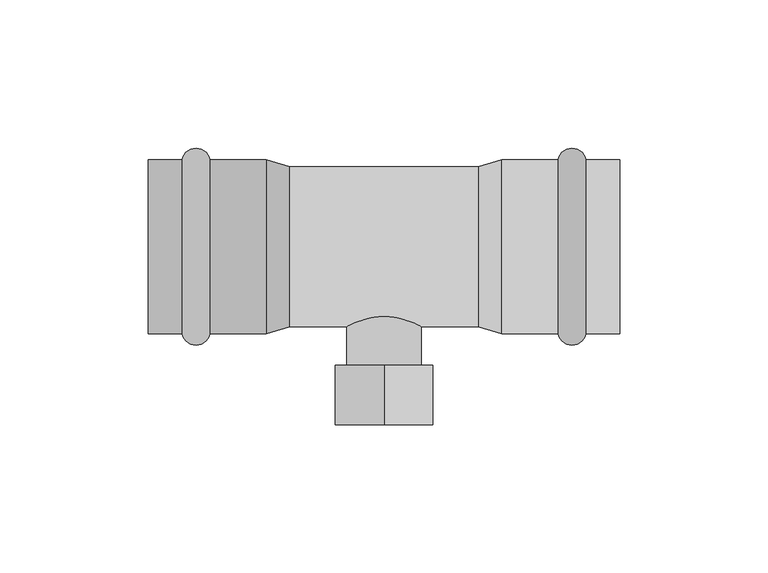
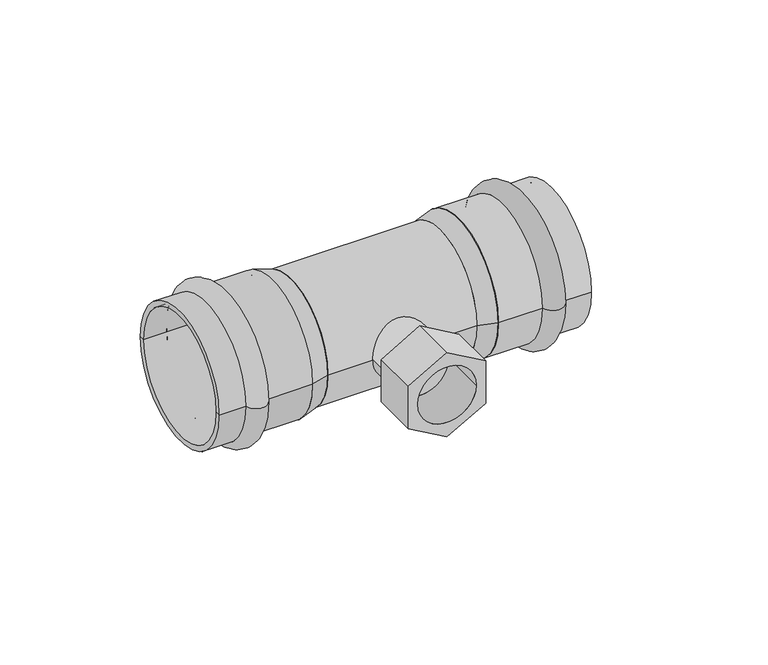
"""IFC4 building model written with IfcOpenShell, lengths in millimetres: pipe fitting geometry, VALTEC_VTi.932.I_Тройник с переходом на внутреннюю резьбу нержавеющая сталь : VTi.932.I."""

from ifc_helpers import new_model, si_unit, point, frame, origin, origin_2d, place, context, project, spatial, polyline, circle_curve, ellipse_curve, trimmed, segment, composite_curve, outline, extrude, source, transform, mapped, element, save
from ifc_brep_helpers import plane_surface, cylinder_surface, revolved_surface, advanced_brep


def pipe_fitting_14393e5a(model_context):
    return source(origin(), model_context, "Body", "SolidModel", [
        advanced_brep(
        [(68.1148701, 29.3, 0.0), (68.1148701, -29.3, 0.0), (58.6851299, -29.3, 0.0), (58.6851299, 29.3, 0.0), (79.5, 29.3, 0.0), (79.5, -29.3, 0.0), (79.5, 27.0, 0.0), (79.5, -27.0, 0.0), (39.75, 27.0, 0.0), (39.75, -27.0, 0.0), (39.75, 29.3, 0.0), (39.75, -29.3, 0.0)],
        [
            (0, 1, circle_curve(frame((68.1148701, 0.0, 0.0), z_axis=(-1.0, 0.0, 0.0), x_axis=(0.0, -1.0, 0.0)), 29.3)),
            (1, 2, circle_curve(frame((63.4, -28.4, 0.0), z_axis=(0.0, 0.0, -1.0), x_axis=(-1.0, 0.0, 0.0)), 4.8)),
            (2, 3, circle_curve(frame((58.6851299, 0.0, 0.0), z_axis=(1.0, 0.0, 0.0), x_axis=(0.0, -1.0, 0.0)), 29.3)),
            (3, 0, circle_curve(frame((63.4, 28.4, 0.0), z_axis=(0.0, 0.0, -1.0), x_axis=(-1.0, 0.0, 0.0)), 4.8)),
            (1, 0, circle_curve(frame((68.1148701, 0.0, 0.0), z_axis=(-1.0, 0.0, 0.0), x_axis=(0.0, -1.0, 0.0)), 29.3)),
            (3, 2, circle_curve(frame((58.6851299, 0.0, 0.0), z_axis=(1.0, 0.0, 0.0), x_axis=(0.0, -1.0, 0.0)), 29.3)),
            (4, 5, circle_curve(frame((79.5, 0.0, 0.0), z_axis=(-1.0, 0.0, 0.0), x_axis=(0.0, -1.0, 0.0)), 29.3)),
            (5, 1),
            (0, 4),
            (5, 4, circle_curve(frame((79.5, 0.0, 0.0), z_axis=(-1.0, 0.0, 0.0), x_axis=(0.0, -1.0, 0.0)), 29.3)),
            (6, 7, circle_curve(frame((79.5, 0.0, 0.0), z_axis=(-1.0, 0.0, 0.0), x_axis=(0.0, -1.0, 0.0)), 27.0)),
            (7, 5),
            (4, 6),
            (7, 6, circle_curve(frame((79.5, 0.0, 0.0), z_axis=(-1.0, 0.0, 0.0), x_axis=(0.0, -1.0, 0.0)), 27.0)),
            (8, 9, circle_curve(frame((39.75, 0.0, 0.0), z_axis=(-1.0, 0.0, 0.0), x_axis=(0.0, -1.0, 0.0)), 27.0)),
            (9, 7),
            (6, 8),
            (9, 8, circle_curve(frame((39.75, 0.0, 0.0), z_axis=(-1.0, 0.0, 0.0), x_axis=(0.0, -1.0, 0.0)), 27.0)),
            (10, 11, circle_curve(frame((39.75, 0.0, 0.0), z_axis=(-1.0, 0.0, 0.0), x_axis=(0.0, -1.0, 0.0)), 29.3)),
            (11, 9),
            (8, 10),
            (11, 10, circle_curve(frame((39.75, 0.0, 0.0), z_axis=(-1.0, 0.0, 0.0), x_axis=(0.0, -1.0, 0.0)), 29.3)),
            (2, 11),
            (10, 3),
        ],
        [
            revolved_surface(trimmed(ellipse_curve(frame((63.4, -28.4, 0.0), z_axis=(0.0, 0.0, 1.0), x_axis=(-1.0, 0.0, 0.0)), 4.8, 4.8), [point((58.6851299, -29.3, 0.0))], [point((68.1148701, -29.3, 0.0))], True, "CARTESIAN"), (83.0364426, 0.0, 0.0), (1.0, 0.0, 0.0)),
            cylinder_surface(frame((83.0364426, 0.0, 0.0), z_axis=(1.0, 0.0, 0.0), x_axis=(0.0, -1.0, 0.0)), 29.3),
            plane_surface(frame((79.5, 0.0, 0.0), z_axis=(1.0, 0.0, 0.0), x_axis=(0.0, -1.0, 0.0))),
            revolved_surface(polyline([(79.5, -27.0, 0.0), (39.75, -27.0, 0.0)]), (83.0364426, 0.0, 0.0), (1.0, 0.0, 0.0)),
            plane_surface(frame((39.75, 0.0, 0.0), z_axis=(-1.0, 0.0, 0.0), x_axis=(0.0, -1.0, 0.0))),
        ],
        [
            (0, [[1, 2, 3, 4]]),
            (0, [[5, -4, 6, -2]]),
            (1, [[7, 8, -1, 9]]),
            (1, [[10, -9, -5, -8]]),
            (2, [[11, 12, -7, 13]]),
            (2, [[14, -13, -10, -12]]),
            (3, [[15, 16, -11, 17]]),
            (3, [[18, -17, -14, -16]]),
            (4, [[19, 20, -15, 21]]),
            (4, [[22, -21, -18, -20]]),
            (1, [[-3, 23, -19, 24]]),
            (1, [[-6, -24, -22, -23]]),
        ],
    ),
        advanced_brep(
        [(-68.1148701, -29.3, 0.0), (-68.1148701, 29.3, 0.0), (-58.6851299, 29.3, 0.0), (-58.6851299, -29.3, 0.0), (-79.5, -29.3, 0.0), (-79.5, 29.3, 0.0), (-79.5, -27.0, 0.0), (-79.5, 27.0, 0.0), (-39.75, -27.0, 0.0), (-39.75, 27.0, 0.0), (-39.75, -29.3, 0.0), (-39.75, 29.3, 0.0)],
        [
            (0, 1, circle_curve(frame((-68.1148701, 0.0, 0.0), z_axis=(1.0, 0.0, 0.0), x_axis=(0.0, 1.0, 0.0)), 29.3)),
            (1, 2, circle_curve(frame((-63.4, 28.4, 0.0), z_axis=(0.0, 0.0, -1.0), x_axis=(1.0, 0.0, 0.0)), 4.8)),
            (2, 3, circle_curve(frame((-58.6851299, 0.0, 0.0), z_axis=(-1.0, 0.0, 0.0), x_axis=(0.0, 1.0, 0.0)), 29.3)),
            (3, 0, circle_curve(frame((-63.4, -28.4, 0.0), z_axis=(0.0, 0.0, -1.0), x_axis=(1.0, 0.0, 0.0)), 4.8)),
            (1, 0, circle_curve(frame((-68.1148701, 0.0, 0.0), z_axis=(1.0, 0.0, 0.0), x_axis=(0.0, 1.0, 0.0)), 29.3)),
            (3, 2, circle_curve(frame((-58.6851299, 0.0, 0.0), z_axis=(-1.0, 0.0, 0.0), x_axis=(0.0, 1.0, 0.0)), 29.3)),
            (4, 5, circle_curve(frame((-79.5, 0.0, 0.0), z_axis=(1.0, 0.0, 0.0), x_axis=(0.0, 1.0, 0.0)), 29.3)),
            (5, 1),
            (0, 4),
            (5, 4, circle_curve(frame((-79.5, 0.0, 0.0), z_axis=(1.0, 0.0, 0.0), x_axis=(0.0, 1.0, 0.0)), 29.3)),
            (6, 7, circle_curve(frame((-79.5, 0.0, 0.0), z_axis=(1.0, 0.0, 0.0), x_axis=(0.0, 1.0, 0.0)), 27.0)),
            (7, 5),
            (4, 6),
            (7, 6, circle_curve(frame((-79.5, 0.0, 0.0), z_axis=(1.0, 0.0, 0.0), x_axis=(0.0, 1.0, 0.0)), 27.0)),
            (8, 9, circle_curve(frame((-39.75, 0.0, 0.0), z_axis=(1.0, 0.0, 0.0), x_axis=(0.0, 1.0, 0.0)), 27.0)),
            (9, 7),
            (6, 8),
            (9, 8, circle_curve(frame((-39.75, 0.0, 0.0), z_axis=(1.0, 0.0, 0.0), x_axis=(0.0, 1.0, 0.0)), 27.0)),
            (10, 11, circle_curve(frame((-39.75, 0.0, 0.0), z_axis=(1.0, 0.0, 0.0), x_axis=(0.0, 1.0, 0.0)), 29.3)),
            (11, 9),
            (8, 10),
            (11, 10, circle_curve(frame((-39.75, 0.0, 0.0), z_axis=(1.0, 0.0, 0.0), x_axis=(0.0, 1.0, 0.0)), 29.3)),
            (2, 11),
            (10, 3),
        ],
        [
            revolved_surface(trimmed(ellipse_curve(frame((-63.4, 28.4, 0.0), z_axis=(0.0, 0.0, 1.0), x_axis=(1.0, 0.0, 0.0)), 4.8, 4.8), [point((-58.6851299, 29.3, 0.0))], [point((-68.1148701, 29.3, 0.0))], True, "CARTESIAN"), (-83.0364426, 0.0, 0.0), (-1.0, 0.0, 0.0)),
            cylinder_surface(frame((-83.0364426, 0.0, 0.0), z_axis=(-1.0, 0.0, 0.0), x_axis=(0.0, 1.0, 0.0)), 29.3),
            plane_surface(frame((-79.5, 0.0, 0.0), z_axis=(-1.0, 0.0, 0.0), x_axis=(0.0, 1.0, 0.0))),
            revolved_surface(polyline([(-79.5, 27.0, 0.0), (-39.75, 27.0, 0.0)]), (-83.0364426, 0.0, 0.0), (-1.0, 0.0, 0.0)),
            plane_surface(frame((-39.75, 0.0, 0.0), z_axis=(1.0, 0.0, 0.0), x_axis=(0.0, 1.0, 0.0))),
        ],
        [
            (0, [[1, 2, 3, 4]]),
            (0, [[5, -4, 6, -2]]),
            (1, [[7, 8, -1, 9]]),
            (1, [[10, -9, -5, -8]]),
            (2, [[11, 12, -7, 13]]),
            (2, [[14, -13, -10, -12]]),
            (3, [[15, 16, -11, 17]]),
            (3, [[18, -17, -14, -16]]),
            (4, [[19, 20, -15, 21]]),
            (4, [[22, -21, -18, -20]]),
            (1, [[-3, 23, -19, 24]]),
            (1, [[-6, -24, -22, -23]]),
        ],
    ),
        extrude(outline(polyline([(19.0525589, 0.0), (9.5262794, -16.5), (-9.5262794, -16.5), (-19.0525589, 0.0), (-9.5262794, 16.5), (9.5262794, 16.5), (19.0525589, 0.0)]), holes=[composite_curve([segment(trimmed(circle_curve(origin_2d(), 12.5), [point((0.0, -12.5))], [point((0.0, 12.5))], True, "CARTESIAN"), True, "CONTINUOUS"), segment(trimmed(circle_curve(origin_2d(), 12.5), [point((0.0, 12.5))], [point((0.0, -12.5))], True, "CARTESIAN"), True, "CONTINUOUS")], self_intersect=False)]), frame((0.0, -60.0, 0.0), z_axis=(0.0, 1.0, 0.0), x_axis=(0.0, 0.0, 1.0)), (0.0, 0.0, 1.0), 20.0),
        extrude(outline(composite_curve([segment(trimmed(circle_curve(origin_2d(), 12.5), [point((0.0, -12.5))], [point((0.0, 12.5))], False, "CARTESIAN"), True, "CONTINUOUS"), segment(trimmed(circle_curve(origin_2d(), 12.5), [point((0.0, 12.5))], [point((0.0, -12.5))], False, "CARTESIAN"), True, "CONTINUOUS")], self_intersect=False)), frame((0.0, -40.0, 0.0), z_axis=(0.0, 1.0, 0.0), x_axis=(0.0, 0.0, 1.0)), (0.0, 0.0, 1.0), 40.0),
        extrude(outline(composite_curve([segment(trimmed(circle_curve(origin_2d(), 27.0), [point((-27.0, 0.0))], [point((27.0, 0.0))], False, "CARTESIAN"), True, "CONTINUOUS"), segment(trimmed(circle_curve(origin_2d(), 27.0), [point((27.0, 0.0))], [point((-27.0, 0.0))], False, "CARTESIAN"), True, "CONTINUOUS")], self_intersect=False)), frame((-31.8, 0.0, 0.0), z_axis=(1.0, 0.0, 0.0), x_axis=(0.0, 1.0, 0.0)), (0.0, 0.0, 1.0), 63.6),
        advanced_brep(
        [(39.75, -29.3, 0.0), (39.75, 29.3, 0.0), (31.8, -27.0, 0.0), (31.8, 27.0, 0.0)],
        [
            (0, 1, circle_curve(frame((39.75, 0.0, 0.0), z_axis=(1.0, 0.0, 0.0), x_axis=(0.0, -1.0, 0.0)), 29.3)),
            (1, 0, circle_curve(frame((39.75, 0.0, 0.0), z_axis=(1.0, 0.0, 0.0), x_axis=(0.0, 1.0, 0.0)), 29.3)),
            (2, 3, circle_curve(frame((31.8, 0.0, 0.0), z_axis=(-1.0, 0.0, 0.0), x_axis=(0.0, 1.0, 0.0)), 27.0)),
            (3, 2, circle_curve(frame((31.8, 0.0, 0.0), z_axis=(-1.0, 0.0, 0.0), x_axis=(0.0, -1.0, 0.0)), 27.0)),
            (3, 1),
            (0, 2),
        ],
        [
            plane_surface(frame((39.75, 0.0, 0.0), z_axis=(1.0, 0.0, 0.0), x_axis=(0.0, 0.0, 1.0))),
            plane_surface(frame((31.8, 0.0, 0.0), z_axis=(-1.0, 0.0, 0.0), x_axis=(0.0, 0.0, 1.0))),
            revolved_surface(polyline([(31.800000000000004, 27.000000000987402, 0.0), (39.74999999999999, 29.3, 0.0)]), (-61.526087, 0.0, 0.0), (1.0, 0.0, 0.0)),
            revolved_surface(polyline([(31.800000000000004, -27.000000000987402, 0.0), (39.74999999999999, -29.3, 0.0)]), (-61.526087, 0.0, 0.0), (1.0, 0.0, 0.0)),
        ],
        [
            (0, [[1, 2]]),
            (1, [[3, 4]]),
            (2, [[-4, 5, -1, 6]]),
            (3, [[-3, -6, -2, -5]]),
        ],
    ),
        advanced_brep(
        [(-39.75, -29.3, 0.0), (-39.75, 29.3, 0.0), (-31.8, -27.0, 0.0), (-31.8, 27.0, 0.0)],
        [
            (0, 1, circle_curve(frame((-39.75, 0.0, 0.0), z_axis=(-1.0, 0.0, 0.0), x_axis=(0.0, -1.0, 0.0)), 29.3)),
            (1, 0, circle_curve(frame((-39.75, 0.0, 0.0), z_axis=(-1.0, 0.0, 0.0), x_axis=(0.0, 1.0, 0.0)), 29.3)),
            (2, 3, circle_curve(frame((-31.8, 0.0, 0.0), z_axis=(1.0, 0.0, 0.0), x_axis=(0.0, 1.0, 0.0)), 27.0)),
            (3, 2, circle_curve(frame((-31.8, 0.0, 0.0), z_axis=(1.0, 0.0, 0.0), x_axis=(0.0, -1.0, 0.0)), 27.0)),
            (2, 0),
            (1, 3),
        ],
        [
            plane_surface(frame((-39.75, 0.0, 0.0), z_axis=(-1.0, 0.0, 0.0), x_axis=(0.0, 0.0, -1.0))),
            plane_surface(frame((-31.8, 0.0, 0.0), z_axis=(1.0, 0.0, 0.0), x_axis=(0.0, 0.0, -1.0))),
            revolved_surface(polyline([(-31.800000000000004, -27.000000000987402, 0.0), (-39.74999999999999, -29.3, 0.0)]), (61.526087, 0.0, 0.0), (-1.0, 0.0, 0.0)),
            revolved_surface(polyline([(-31.800000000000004, 27.000000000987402, 0.0), (-39.74999999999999, 29.3, 0.0)]), (61.526087, 0.0, 0.0), (-1.0, 0.0, 0.0)),
        ],
        [
            (0, [[1, 2]]),
            (1, [[3, 4]]),
            (2, [[-3, 5, -2, 6]]),
            (3, [[-4, -6, -1, -5]]),
        ],
    ),
    ])


if __name__ == "__main__":
    model = new_model("IFC4")
    model_context = context("Model", 3, world=origin())
    ifc_project = project(units=[si_unit("LENGTHUNIT", "METRE", prefix="MILLI")], contexts=[model_context])
    site = spatial("IfcSite", under=ifc_project)
    building = spatial("IfcBuilding", under=site)
    placement = place(None, origin())
    pipe_fitting_shape = pipe_fitting_14393e5a(model_context)
    element("IfcPipeFitting", 1, ObjectType="VALTEC_VTi.932.I_Тройник с переходом на внутреннюю резьбу нержавеющая сталь : VTi.932.I", at=placement, inside=building, context=model_context, shape_type="MappedRepresentation", body=[
        mapped(pipe_fitting_shape, transform((0.0, 0.0, 0.0), x_axis=(1.0, 0.0, 0.0), y_axis=(0.0, 1.0, 0.0), z_axis=(0.0, 0.0, 1.0))),
    ])
    save(model, "model.ifc")
